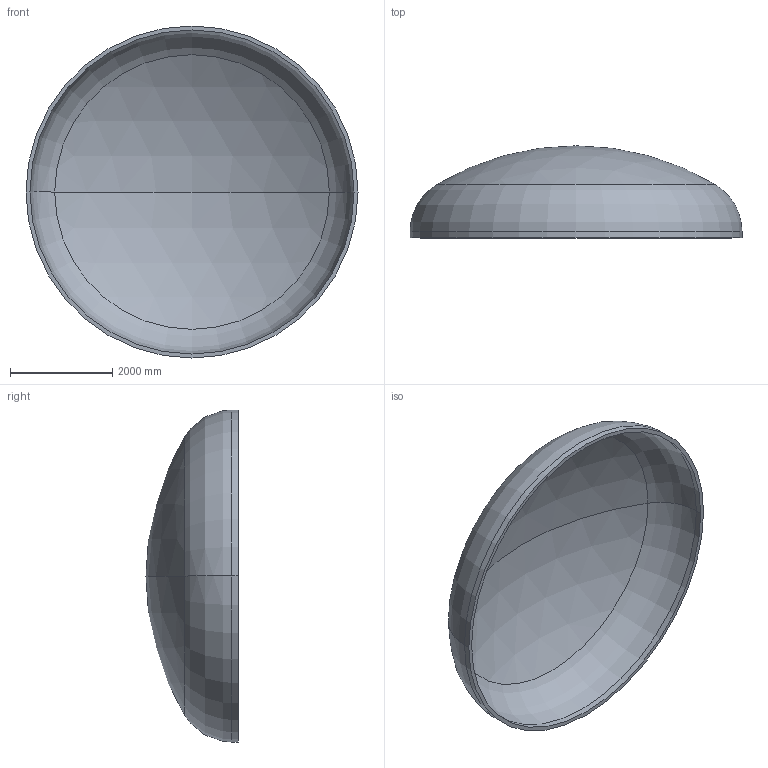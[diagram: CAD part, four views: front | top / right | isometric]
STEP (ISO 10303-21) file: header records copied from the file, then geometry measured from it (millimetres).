
FILE_DESCRIPTION (( 'STEP AP203' ), '1' );
FILE_NAME ('DIN 28013 Korbbogenform_-_Boden DIN 28013 - 6500 x 120 - I - s=78.step', '2016-07-04T10:43:17', ( '' ), ( '' ), 'SwSTEP 2.0', 'SolidWorks 2013', '' );
FILE_SCHEMA (( 'CONFIG_CONTROL_DESIGN' ));
Length unit declared in the file: millimetre
Products named in the file (1): DIN 28013 Korbbogenform_-_Boden DIN 28013 - 6500 x 120 - I - s=78
Bounding box: 6500 x 1803.22 x 6500 mm (x, y, z)
Volume: 3716451451.2 mm3; surface area: 96880007.1 mm2
Topology: 1 solids, 1 shells, 13 faces, 24 edges, 14 vertices
Faces by surface type: torus 4, cylinder 4, sphere 4, plane 1
Entity records: 407 total; most frequent: DIRECTION 72, CARTESIAN_POINT 52, ORIENTED_EDGE 48, AXIS2_PLACEMENT_3D 34, EDGE_CURVE 24, CIRCLE 20, VERTEX_POINT 14, EDGE_LOOP 14
